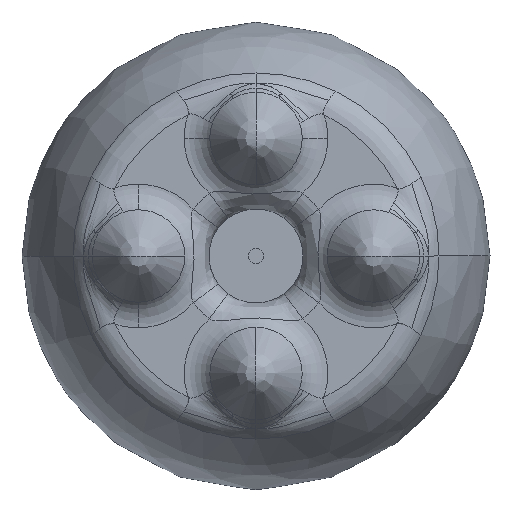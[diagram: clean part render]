
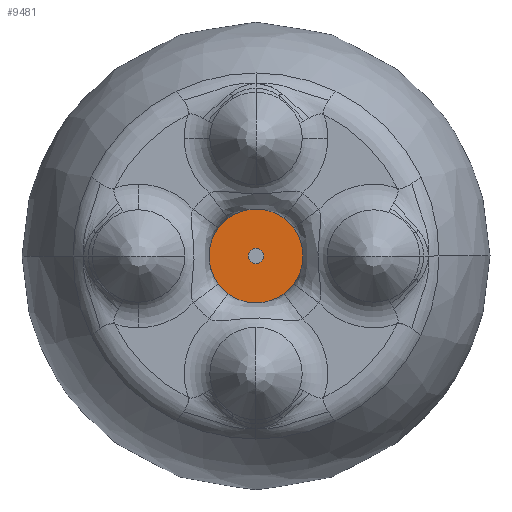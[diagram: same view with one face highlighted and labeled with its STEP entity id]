
A CAD part, front view. The second image highlights one B-rep face of the part: STEP entity #9481.
In plain terms, the highlighted planar face has unit normal (0, -1, 0).
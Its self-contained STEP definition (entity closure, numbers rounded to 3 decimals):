
#56 = ORIENTED_EDGE ( 'NONE', *, *, #5387, .F. ) ;
#164 = CARTESIAN_POINT ( 'NONE',  ( 0., -115., 0. ) ) ;
#211 = DIRECTION ( 'NONE',  ( 0., -1., 0. ) ) ;
#590 = VERTEX_POINT ( 'NONE', #6944 ) ;
#617 = DIRECTION ( 'NONE',  ( 0., -1., 0. ) ) ;
#657 = AXIS2_PLACEMENT_3D ( 'NONE', #3970, #2830, #10338 ) ;
#1403 = ORIENTED_EDGE ( 'NONE', *, *, #4466, .T. ) ;
#1674 = CARTESIAN_POINT ( 'NONE',  ( 0., -115., 0. ) ) ;
#2155 = DIRECTION ( 'NONE',  ( 0., -1., 0. ) ) ;
#2191 = EDGE_CURVE ( 'NONE', #8756, #590, #8807, .T. ) ;
#2218 = VERTEX_POINT ( 'NONE', #8997 ) ;
#2385 = ORIENTED_EDGE ( 'NONE', *, *, #6712, .T. ) ;
#2428 = CIRCLE ( 'NONE', #657, 30. ) ;
#2472 = CARTESIAN_POINT ( 'NONE',  ( -24.076, -115., -17.898 ) ) ;
#2563 = CARTESIAN_POINT ( 'NONE',  ( 0., -115., 0. ) ) ;
#2651 = CARTESIAN_POINT ( 'NONE',  ( 5., -115., 0. ) ) ;
#2672 = CARTESIAN_POINT ( 'NONE',  ( 24.076, -115., -17.898 ) ) ;
#2734 = FACE_OUTER_BOUND ( 'NONE', #5074, .T. ) ;
#2787 = EDGE_CURVE ( 'NONE', #4636, #8343, #12505, .T. ) ;
#2830 = DIRECTION ( 'NONE',  ( 0., -1., 0. ) ) ;
#2972 = EDGE_CURVE ( 'NONE', #8343, #13588, #2428, .T. ) ;
#3056 = CARTESIAN_POINT ( 'NONE',  ( 0., -115., 0. ) ) ;
#3396 = ORIENTED_EDGE ( 'NONE', *, *, #2787, .T. ) ;
#3555 = CIRCLE ( 'NONE', #5070, 30. ) ;
#3970 = CARTESIAN_POINT ( 'NONE',  ( 0., -115., 0. ) ) ;
#4078 = CIRCLE ( 'NONE', #8392, 5. ) ;
#4337 = AXIS2_PLACEMENT_3D ( 'NONE', #1674, #8094, #7894 ) ;
#4466 = EDGE_CURVE ( 'NONE', #5574, #5064, #11501, .T. ) ;
#4549 = CARTESIAN_POINT ( 'NONE',  ( 17.898, -115., 24.076 ) ) ;
#4636 = VERTEX_POINT ( 'NONE', #4882 ) ;
#4776 = CARTESIAN_POINT ( 'NONE',  ( 0., -115., 0. ) ) ;
#4814 = DIRECTION ( 'NONE',  ( 1., 0., 0. ) ) ;
#4852 = CARTESIAN_POINT ( 'NONE',  ( -17.898, -115., 24.076 ) ) ;
#4882 = CARTESIAN_POINT ( 'NONE',  ( 17.898, -115., -24.076 ) ) ;
#5049 = DIRECTION ( 'NONE',  ( 1., 0., 0. ) ) ;
#5064 = VERTEX_POINT ( 'NONE', #8483 ) ;
#5070 = AXIS2_PLACEMENT_3D ( 'NONE', #2563, #10162, #4814 ) ;
#5074 = EDGE_LOOP ( 'NONE', ( #5641, #13411, #1403, #2385, #12803, #12900, #3396, #9591, #7523 ) ) ;
#5249 = CIRCLE ( 'NONE', #6939, 30. ) ;
#5331 = CARTESIAN_POINT ( 'NONE',  ( 24.076, -115., 17.898 ) ) ;
#5387 = EDGE_CURVE ( 'NONE', #2218, #5744, #6593, .T. ) ;
#5404 = AXIS2_PLACEMENT_3D ( 'NONE', #10171, #617, #8052 ) ;
#5574 = VERTEX_POINT ( 'NONE', #4852 ) ;
#5641 = ORIENTED_EDGE ( 'NONE', *, *, #8842, .T. ) ;
#5744 = VERTEX_POINT ( 'NONE', #2651 ) ;
#5856 = DIRECTION ( 'NONE',  ( 1., 0., 0. ) ) ;
#6087 = CIRCLE ( 'NONE', #4337, 30. ) ;
#6195 = DIRECTION ( 'NONE',  ( 1., 0., 0. ) ) ;
#6356 = DIRECTION ( 'NONE',  ( 1., 0., 0. ) ) ;
#6593 = CIRCLE ( 'NONE', #8289, 5. ) ;
#6699 = DIRECTION ( 'NONE',  ( 1., 0., 0. ) ) ;
#6712 = EDGE_CURVE ( 'NONE', #5064, #8756, #9641, .T. ) ;
#6821 = DIRECTION ( 'NONE',  ( 0., -1., 0. ) ) ;
#6939 = AXIS2_PLACEMENT_3D ( 'NONE', #4776, #6821, #5856 ) ;
#6944 = CARTESIAN_POINT ( 'NONE',  ( -17.898, -115., -24.076 ) ) ;
#7073 = DIRECTION ( 'NONE',  ( 0., -1., 0. ) ) ;
#7282 = CARTESIAN_POINT ( 'NONE',  ( 0., -115., 0. ) ) ;
#7329 = DIRECTION ( 'NONE',  ( 0., -1., 0. ) ) ;
#7471 = DIRECTION ( 'NONE',  ( 0., -1., 0. ) ) ;
#7523 = ORIENTED_EDGE ( 'NONE', *, *, #9960, .T. ) ;
#7571 = CARTESIAN_POINT ( 'NONE',  ( 30., -115., 0. ) ) ;
#7721 = AXIS2_PLACEMENT_3D ( 'NONE', #3056, #12897, #10564 ) ;
#7894 = DIRECTION ( 'NONE',  ( 1., 0., 0. ) ) ;
#8052 = DIRECTION ( 'NONE',  ( 1., 0., 0. ) ) ;
#8094 = DIRECTION ( 'NONE',  ( 0., -1., 0. ) ) ;
#8233 = DIRECTION ( 'NONE',  ( 1., 0., 0. ) ) ;
#8265 = CIRCLE ( 'NONE', #7721, 30. ) ;
#8289 = AXIS2_PLACEMENT_3D ( 'NONE', #164, #211, #6699 ) ;
#8343 = VERTEX_POINT ( 'NONE', #2672 ) ;
#8392 = AXIS2_PLACEMENT_3D ( 'NONE', #11350, #7073, #6195 ) ;
#8457 = VERTEX_POINT ( 'NONE', #5331 ) ;
#8479 = AXIS2_PLACEMENT_3D ( 'NONE', #8504, #2155, #13882 ) ;
#8483 = CARTESIAN_POINT ( 'NONE',  ( -24.076, -115., 17.898 ) ) ;
#8504 = CARTESIAN_POINT ( 'NONE',  ( 0., -115., 0. ) ) ;
#8588 = PLANE ( 'NONE',  #8479 ) ;
#8756 = VERTEX_POINT ( 'NONE', #2472 ) ;
#8807 = CIRCLE ( 'NONE', #5404, 30. ) ;
#8842 = EDGE_CURVE ( 'NONE', #8457, #10750, #5249, .T. ) ;
#8997 = CARTESIAN_POINT ( 'NONE',  ( -5., -115., 0. ) ) ;
#9449 = DIRECTION ( 'NONE',  ( 0., -1., 0. ) ) ;
#9481 = ADVANCED_FACE ( 'NONE', ( #10923, #2734 ), #8588, .T. ) ;
#9523 = EDGE_CURVE ( 'NONE', #10750, #5574, #8265, .T. ) ;
#9591 = ORIENTED_EDGE ( 'NONE', *, *, #2972, .T. ) ;
#9641 = CIRCLE ( 'NONE', #13222, 30. ) ;
#9741 = ORIENTED_EDGE ( 'NONE', *, *, #13015, .F. ) ;
#9960 = EDGE_CURVE ( 'NONE', #13588, #8457, #6087, .T. ) ;
#10067 = EDGE_CURVE ( 'NONE', #590, #4636, #3555, .T. ) ;
#10162 = DIRECTION ( 'NONE',  ( 0., -1., 0. ) ) ;
#10171 = CARTESIAN_POINT ( 'NONE',  ( 0., -115., 0. ) ) ;
#10338 = DIRECTION ( 'NONE',  ( 1., 0., 0. ) ) ;
#10450 = AXIS2_PLACEMENT_3D ( 'NONE', #13760, #7329, #5049 ) ;
#10564 = DIRECTION ( 'NONE',  ( 1., 0., 0. ) ) ;
#10750 = VERTEX_POINT ( 'NONE', #4549 ) ;
#10923 = FACE_BOUND ( 'NONE', #11378, .T. ) ;
#11147 = AXIS2_PLACEMENT_3D ( 'NONE', #7282, #9449, #8233 ) ;
#11350 = CARTESIAN_POINT ( 'NONE',  ( 0., -115., 0. ) ) ;
#11378 = EDGE_LOOP ( 'NONE', ( #9741, #56 ) ) ;
#11501 = CIRCLE ( 'NONE', #11147, 30. ) ;
#12505 = CIRCLE ( 'NONE', #10450, 30. ) ;
#12803 = ORIENTED_EDGE ( 'NONE', *, *, #2191, .T. ) ;
#12897 = DIRECTION ( 'NONE',  ( 0., -1., 0. ) ) ;
#12900 = ORIENTED_EDGE ( 'NONE', *, *, #10067, .T. ) ;
#13015 = EDGE_CURVE ( 'NONE', #5744, #2218, #4078, .T. ) ;
#13222 = AXIS2_PLACEMENT_3D ( 'NONE', #13862, #7471, #6356 ) ;
#13411 = ORIENTED_EDGE ( 'NONE', *, *, #9523, .T. ) ;
#13588 = VERTEX_POINT ( 'NONE', #7571 ) ;
#13760 = CARTESIAN_POINT ( 'NONE',  ( 0., -115., 0. ) ) ;
#13862 = CARTESIAN_POINT ( 'NONE',  ( 0., -115., 0. ) ) ;
#13882 = DIRECTION ( 'NONE',  ( 1., 0., 0. ) ) ;
